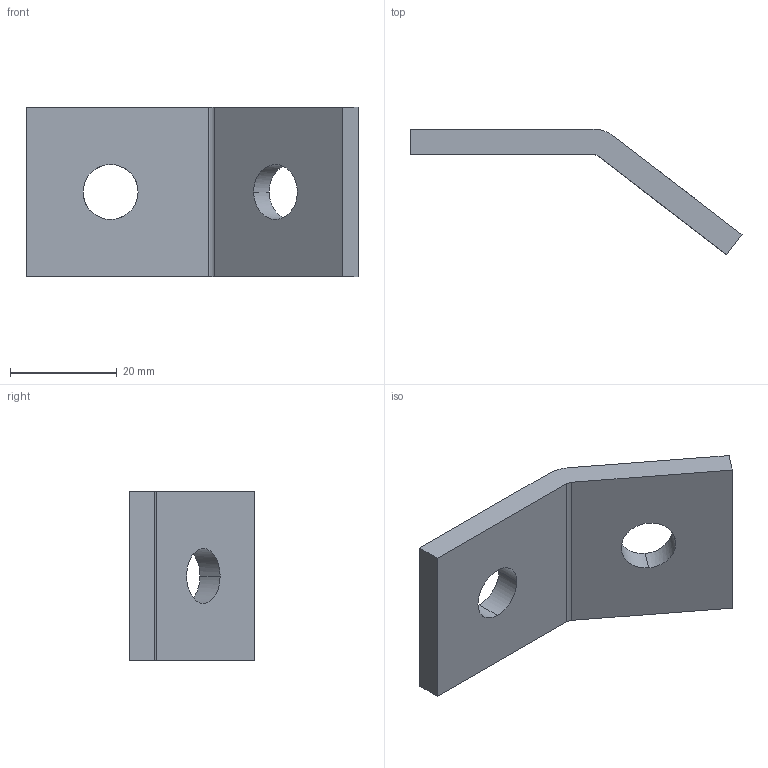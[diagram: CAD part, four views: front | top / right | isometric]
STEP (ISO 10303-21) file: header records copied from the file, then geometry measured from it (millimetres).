
FILE_DESCRIPTION(('TurboCAD Mac Pro'),'Build 980');
FILE_NAME('A2127.stp',' ',(''),(''),'ACIS Interop','IMSI','TurboCAD Mac Pro BY IMSI, INCORPORATED');
FILE_SCHEMA(('automotive_design'));
Length unit declared in the file: inch
Products named in the file (1): 1
Bounding box: 62.33 x 23.59 x 31.75 mm (x, y, z)
Volume: 9385.9 mm3; surface area: 5194.3 mm2
Topology: 1 solids, 1 shells, 18 faces, 48 edges, 32 vertices
Faces by surface type: bspline 10, plane 8
Entity records: 1050 total; most frequent: CARTESIAN_POINT 301, ORIENTED_EDGE 96, STYLED_ITEM 55, PRESENTATION_STYLE_ASSIGNMENT 55, COLOUR_RGB 55, DIRECTION 54, EDGE_CURVE 48, CURVE_STYLE 36
